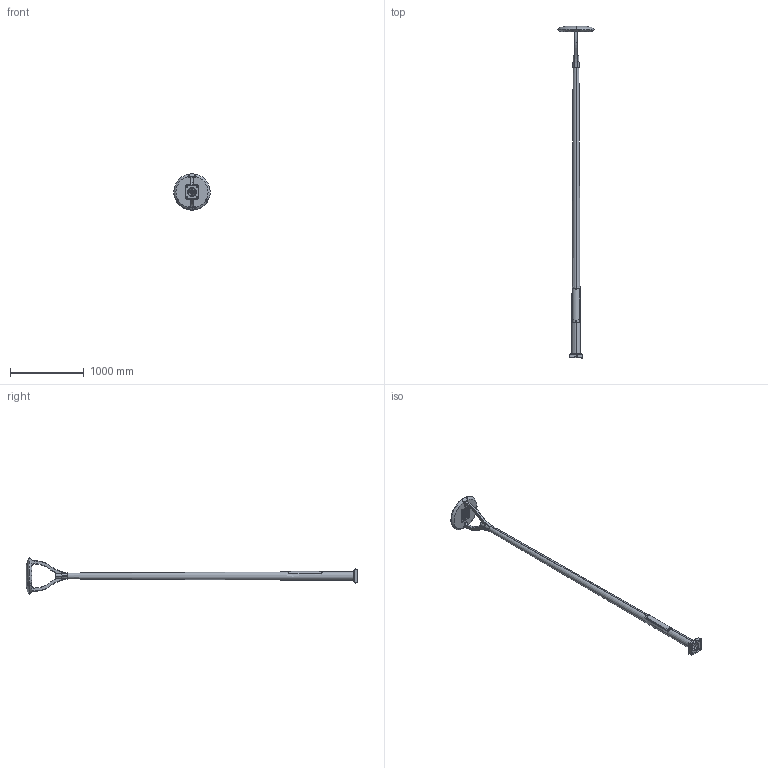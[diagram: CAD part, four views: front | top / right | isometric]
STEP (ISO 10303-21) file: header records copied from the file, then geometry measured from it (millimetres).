
FILE_DESCRIPTION (( 'STEP AP214' ), '1' );
FILE_NAME ('orba-1-4(40D)-(Ê170-130-4õ14)-ö+ïî.STEP', '2021-07-08T14:29:59', ( '' ), ( '' ), 'SwSTEP 2.0', 'SolidWorks 2020', '' );
FILE_SCHEMA (( 'AUTOMOTIVE_DESIGN' ));
Length unit declared in the file: millimetre
Products named in the file (19): Êðåïëåíèå ñâåòèëüíèêà MOON-STAR-D-60Âò; orba-1-4(40D)-(Ê170-130-4õ14)-ö+ïî; 170õ170õ10 (121),ì.ö.130, 4õ14_Ôëàíåö; DIN-ðåéêà_ŽƒŠ-6; BS- 170(Ä119)-Äåêîðàòèâíûé öîêîëü; Ñòîéêà ÎÊÊô-4,0 Ò76-orba; Ñâåòèëüíèê òîðøåðíûé MOON-STAR-D-40Âò; Êðûøêà ëþêà ÎÊÊ-4-orba; Òðóáà 76õ80-orba; Ïëàíêà çàçåìëåíèÿ 35õ20; BS-170(Ä119) -Ïîëóêðûøêà; Ñâåòèëüíèê òîðøåðíûé  MOON-STAR -D, 40 Âò_’®àè¥à D; Ñòàíäàðíûå_Ðåçüáîâàÿ çàêë¸ïêà Ì6_Šàã£« ï à¥§ì¡®¢ ï § ª«¥¯ª  Œ8 á æ¨«¨­¤à¨ç¥áª¨¬ ¡ãàâ®¬ ®âªàëâ®£® â¨¯  ¨§ ­¥à¦ ¢¥îé¥© áâ «¨; BS-170(Ä119)-Ïîëóêðûøêà; ÎÊÊô-4,0 Ò76 (Ê170-130-4õ14)-orba; BS-170(Ä119)-Ïëàòèê; Ï.1210.004.01.01-Ò76_Ñòîéêà ÎÊÊô-4,0 Ò76; socket button head screw_iso_ISO 7380 - M6 x 16 - 16N
Assembly tree (24 placements, depth 4):
  orba-1-4(40D)-(Ê170-130-4õ14)-ö+ïî
    ÎÊÊô-4,0 Ò76 (Ê170-130-4õ14)-orba
      Ñòîéêà ÎÊÊô-4,0 Ò76-orba
        Ï.1210.004.01.01-Ò76_Ñòîéêà ÎÊÊô-4,0 Ò76
        170õ170õ10 (121),ì.ö.130, 4õ14_Ôëàíåö
        Ïëàíêà çàçåìëåíèÿ 35õ20
        DIN-ðåéêà_ŽƒŠ-6
        Òðóáà 76õ80-orba
      Êðûøêà ëþêà ÎÊÊ-4-orba
      Ñòàíäàðíûå_Ðåçüáîâàÿ çàêë¸ïêà Ì6_Šàã£« ï à¥§ì¡®¢ ï § ª«¥¯ª  Œ8 á æ¨«¨­¤à¨ç¥áª¨¬ ¡ãàâ®¬ ®âªàëâ®£® â¨¯  ¨§ ­¥à¦ ¢¥îé¥© áâ «¨  x2
      socket button head screw_iso_ISO 7380 - M6 x 16 - 16N  x2
    Ñâåòèëüíèê òîðøåðíûé  MOON-STAR -D, 40 Âò_’®àè¥à D
      Ñâåòèëüíèê òîðøåðíûé MOON-STAR-D-40Âò
      Êðåïëåíèå ñâåòèëüíèêà MOON-STAR-D-60Âò
    BS- 170(Ä119)-Äåêîðàòèâíûé öîêîëü
      BS-170(Ä119) -Ïîëóêðûøêà
        BS-170(Ä119)-Ïîëóêðûøêà
        BS-170(Ä119)-Ïëàòèê
      BS-170(Ä119) -Ïîëóêðûøêà
        BS-170(Ä119)-Ïîëóêðûøêà
        BS-170(Ä119)-Ïëàòèê
      socket button head screw_iso_ISO 7380 - M6 x 16 - 16N  x2
Bounding box: 489.21 x 4489.12 x 490 mm (x, y, z)
Volume: 16780319.8 mm3; surface area: 3474831.3 mm2
Topology: 22 solids, 22 shells, 991 faces, 2216 edges, 1382 vertices
Faces by surface type: plane 375, cone 256, cylinder 243, torus 75, bspline 30, sphere 12
Entity records: 30883 total; most frequent: CARTESIAN_POINT 7733, DIRECTION 4204, ORIENTED_EDGE 3662, EDGE_CURVE 1831, AXIS2_PLACEMENT_3D 1718, VERTEX_POINT 1165, EDGE_LOOP 972, CIRCLE 891
